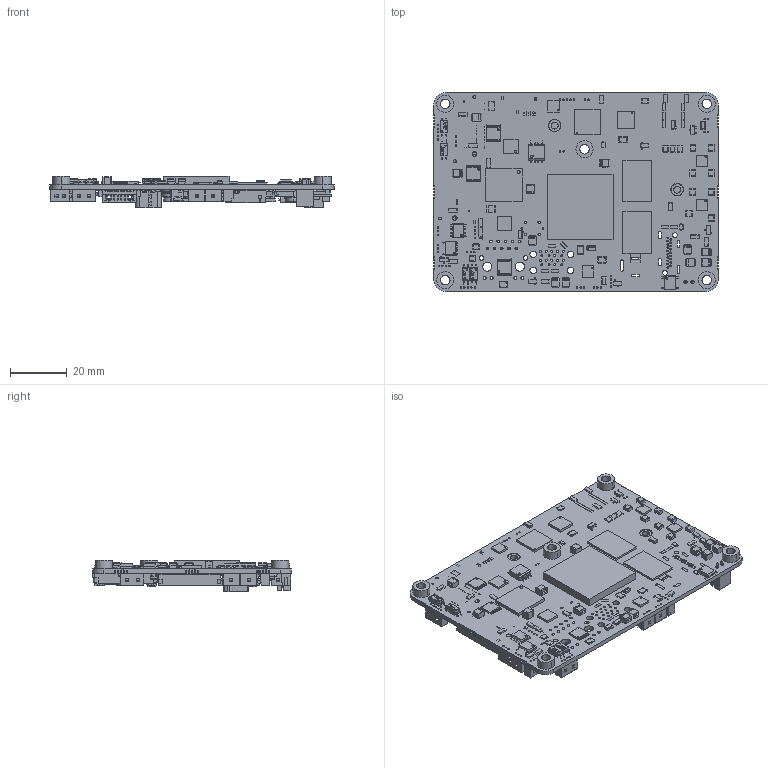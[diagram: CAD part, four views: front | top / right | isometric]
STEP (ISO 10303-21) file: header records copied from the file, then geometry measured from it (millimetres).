
FILE_DESCRIPTION((''),'2;1');
FILE_NAME('467444_002-02_LIGHT','2024-07-31T',('admin'),(''),'CREO PARAMETRIC BY PTC INC, 2014350','CREO PARAMETRIC BY PTC INC, 2014350','');
FILE_SCHEMA(('AUTOMOTIVE_DESIGN { 1 0 10303 214 1 1 1 1 }'));
Products named in the file (1): 467444_002-02_LIGHT
Bounding box: 100 x 70.01 x 11.02 mm (x, y, z)
Surface area: 23404.7 mm2 (no closed solid volume)
Topology: 0 solids, 653 shells, 2209 faces, 13450 edges, 11722 vertices
Faces by surface type: plane 1816, cylinder 365, bspline 9, cone 8, sphere 8, torus 3
Entity records: 141789 total; most frequent: CARTESIAN_POINT 30467, DIRECTION 19396, ORIENTED_EDGE 16214, EDGE_CURVE 13447, VERTEX_POINT 11726, VECTOR 10822, LINE 10822, AXIS2_PLACEMENT_3D 4287
